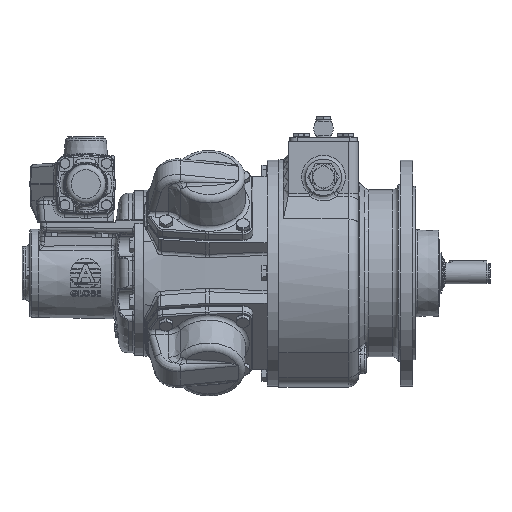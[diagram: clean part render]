
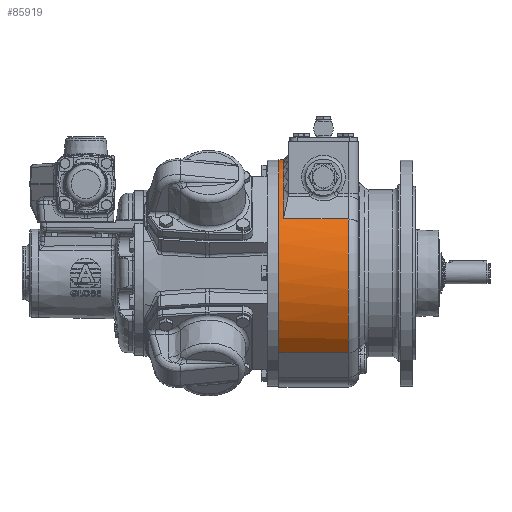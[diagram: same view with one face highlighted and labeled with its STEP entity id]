
A CAD part, top view. The second image highlights one B-rep face of the part: STEP entity #85919.
In plain terms, the highlighted cylindrical face has radius 151 mm (diameter 302 mm), a partial arc.
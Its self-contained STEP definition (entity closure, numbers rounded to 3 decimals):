
#2381 = CARTESIAN_POINT ( 'NONE',  ( 92.675, 0., 0. ) ) ;
#4820 = CARTESIAN_POINT ( 'NONE',  ( 98.675, 0., 0. ) ) ;
#4897 = DIRECTION ( 'NONE',  ( 1., 0., 0. ) ) ;
#8999 = EDGE_CURVE ( 'NONE', #43691, #16205, #174219, .T. ) ;
#15416 = CARTESIAN_POINT ( 'NONE',  ( 98.675, 71.651, -132.918 ) ) ;
#16205 = VERTEX_POINT ( 'NONE', #72276 ) ;
#18841 = CYLINDRICAL_SURFACE ( 'NONE', #77490, 151. ) ;
#21758 = DIRECTION ( 'NONE',  ( -1., 0., 0. ) ) ;
#24646 = VECTOR ( 'NONE', #149159, 1000. ) ;
#28381 = VERTEX_POINT ( 'NONE', #144693 ) ;
#30305 = VERTEX_POINT ( 'NONE', #79298 ) ;
#34357 = AXIS2_PLACEMENT_3D ( 'NONE', #4820, #103036, #161633 ) ;
#37204 = CARTESIAN_POINT ( 'NONE',  ( 114.675, 71.651, -132.918 ) ) ;
#37472 = VECTOR ( 'NONE', #166001, 1000. ) ;
#38401 = CARTESIAN_POINT ( 'NONE',  ( 114.675, -105.718, 107.818 ) ) ;
#41446 = VECTOR ( 'NONE', #151065, 1000. ) ;
#43000 = ORIENTED_EDGE ( 'NONE', *, *, #56755, .T. ) ;
#43691 = VERTEX_POINT ( 'NONE', #142468 ) ;
#51197 = CIRCLE ( 'NONE', #131784, 151. ) ;
#56755 = EDGE_CURVE ( 'NONE', #28381, #182017, #51197, .T. ) ;
#57437 = EDGE_CURVE ( 'NONE', #102582, #128681, #126206, .T. ) ;
#61842 = DIRECTION ( 'NONE',  ( 0., 0., -1. ) ) ;
#62760 = CARTESIAN_POINT ( 'NONE',  ( 114.675, 0., 0. ) ) ;
#67981 = LINE ( 'NONE', #37204, #41446 ) ;
#68847 = ORIENTED_EDGE ( 'NONE', *, *, #182044, .T. ) ;
#68851 = CARTESIAN_POINT ( 'NONE',  ( 184.675, 0., 0. ) ) ;
#72276 = CARTESIAN_POINT ( 'NONE',  ( 92.675, -105.718, -107.818 ) ) ;
#77277 = CARTESIAN_POINT ( 'NONE',  ( 114.675, -105.718, -107.818 ) ) ;
#77490 = AXIS2_PLACEMENT_3D ( 'NONE', #62760, #4897, #61842 ) ;
#79298 = CARTESIAN_POINT ( 'NONE',  ( 98.675, 71.651, 132.918 ) ) ;
#82691 = ORIENTED_EDGE ( 'NONE', *, *, #164553, .F. ) ;
#85919 = ADVANCED_FACE ( 'NONE', ( #176726 ), #18841, .T. ) ;
#92539 = ORIENTED_EDGE ( 'NONE', *, *, #163506, .T. ) ;
#93915 = EDGE_LOOP ( 'NONE', ( #167726, #68847, #43000, #149985, #127250, #92539, #97253, #82691 ) ) ;
#95485 = DIRECTION ( 'NONE',  ( 1., 0., 0. ) ) ;
#97202 = CIRCLE ( 'NONE', #34357, 151. ) ;
#97253 = ORIENTED_EDGE ( 'NONE', *, *, #57437, .T. ) ;
#102582 = VERTEX_POINT ( 'NONE', #182096 ) ;
#103036 = DIRECTION ( 'NONE',  ( -1., 0., 0. ) ) ;
#109179 = LINE ( 'NONE', #111005, #37472 ) ;
#111005 = CARTESIAN_POINT ( 'NONE',  ( 114.675, 71.651, 132.918 ) ) ;
#117644 = AXIS2_PLACEMENT_3D ( 'NONE', #2381, #145181, #142446 ) ;
#119899 = VERTEX_POINT ( 'NONE', #15416 ) ;
#124957 = DIRECTION ( 'NONE',  ( -1., 0., 0. ) ) ;
#126206 = CIRCLE ( 'NONE', #173885, 151. ) ;
#127250 = ORIENTED_EDGE ( 'NONE', *, *, #154438, .T. ) ;
#128681 = VERTEX_POINT ( 'NONE', #156616 ) ;
#131784 = AXIS2_PLACEMENT_3D ( 'NONE', #148766, #21758, #146046 ) ;
#142446 = DIRECTION ( 'NONE',  ( 0., -1., 0. ) ) ;
#142468 = CARTESIAN_POINT ( 'NONE',  ( 92.675, -105.718, 107.818 ) ) ;
#144693 = CARTESIAN_POINT ( 'NONE',  ( 184.675, -105.718, 107.818 ) ) ;
#145181 = DIRECTION ( 'NONE',  ( -1., 0., 0. ) ) ;
#146046 = DIRECTION ( 'NONE',  ( 0., 0., -1. ) ) ;
#148233 = LINE ( 'NONE', #77277, #24646 ) ;
#148587 = CARTESIAN_POINT ( 'NONE',  ( 184.675, 71.651, 132.918 ) ) ;
#148766 = CARTESIAN_POINT ( 'NONE',  ( 184.675, 0., 0. ) ) ;
#149159 = DIRECTION ( 'NONE',  ( 1., 0., 0. ) ) ;
#149985 = ORIENTED_EDGE ( 'NONE', *, *, #166008, .F. ) ;
#151065 = DIRECTION ( 'NONE',  ( 1., 0., 0. ) ) ;
#154438 = EDGE_CURVE ( 'NONE', #30305, #119899, #97202, .T. ) ;
#156616 = CARTESIAN_POINT ( 'NONE',  ( 184.675, -105.718, -107.818 ) ) ;
#159794 = VECTOR ( 'NONE', #95485, 1000. ) ;
#161633 = DIRECTION ( 'NONE',  ( 0., 0., 1. ) ) ;
#163506 = EDGE_CURVE ( 'NONE', #119899, #102582, #67981, .T. ) ;
#164553 = EDGE_CURVE ( 'NONE', #16205, #128681, #148233, .T. ) ;
#166001 = DIRECTION ( 'NONE',  ( 1., 0., 0. ) ) ;
#166008 = EDGE_CURVE ( 'NONE', #30305, #182017, #109179, .T. ) ;
#166052 = DIRECTION ( 'NONE',  ( 0., 0., -1. ) ) ;
#166369 = LINE ( 'NONE', #38401, #159794 ) ;
#167726 = ORIENTED_EDGE ( 'NONE', *, *, #8999, .F. ) ;
#173885 = AXIS2_PLACEMENT_3D ( 'NONE', #68851, #124957, #166052 ) ;
#174219 = CIRCLE ( 'NONE', #117644, 151. ) ;
#176726 = FACE_OUTER_BOUND ( 'NONE', #93915, .T. ) ;
#182017 = VERTEX_POINT ( 'NONE', #148587 ) ;
#182044 = EDGE_CURVE ( 'NONE', #43691, #28381, #166369, .T. ) ;
#182096 = CARTESIAN_POINT ( 'NONE',  ( 184.675, 71.651, -132.918 ) ) ;
